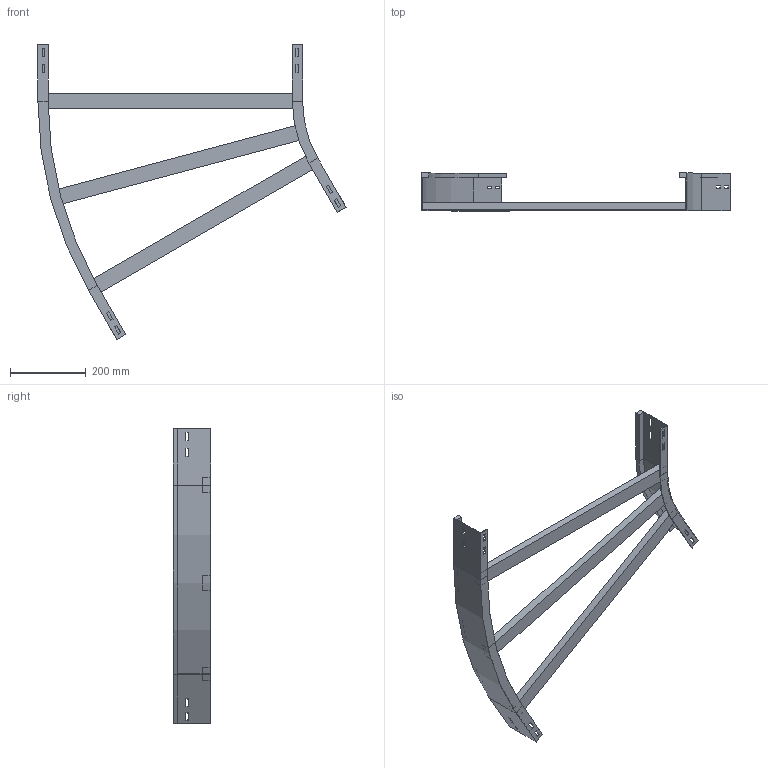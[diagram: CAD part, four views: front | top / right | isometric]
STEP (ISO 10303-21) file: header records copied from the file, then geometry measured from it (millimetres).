
FILE_DESCRIPTION (( 'STEP AP214' ), '1' );
FILE_NAME ('A2_12B3D700.step', '2025-02-21T15:07:25', ( '' ), ( '' ), 'SwSTEP 2.0', 'SolidWorks 2023', '' );
FILE_SCHEMA (( 'AUTOMOTIVE_DESIGN' ));
Length unit declared in the file: millimetre
Products named in the file (4): TRAVERSINO_700; A2_LONGH.INTERNO 30°_H100_R300; A2_LONGH.ESTERNO 30°_H100_R300+700; A2_12B3D700
Assembly tree (5 placements, depth 2):
  A2_12B3D700
    A2_LONGH.INTERNO 30°_H100_R300
    A2_LONGH.ESTERNO 30°_H100_R300+700
    TRAVERSINO_700  x3
Bounding box: 815.19 x 100 x 779.9 mm (x, y, z)
Volume: 2252411.9 mm3; surface area: 622478 mm2
Topology: 5 solids, 5 shells, 134 faces, 340 edges, 216 vertices
Faces by surface type: plane 126, cylinder 8
Entity records: 3821 total; most frequent: CARTESIAN_POINT 646, ORIENTED_EDGE 632, DIRECTION 592, EDGE_CURVE 316, VECTOR 300, LINE 300, VERTEX_POINT 200, EDGE_LOOP 154
